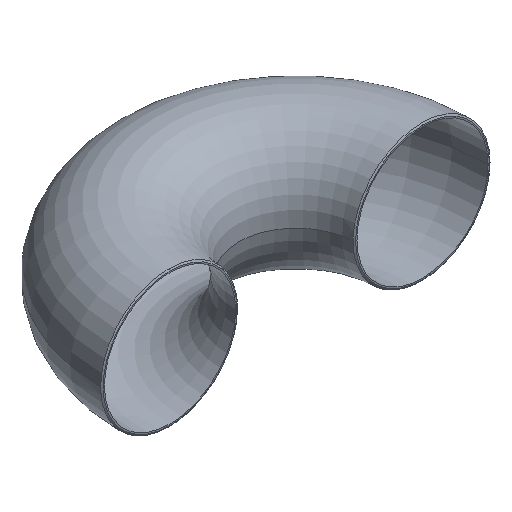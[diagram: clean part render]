
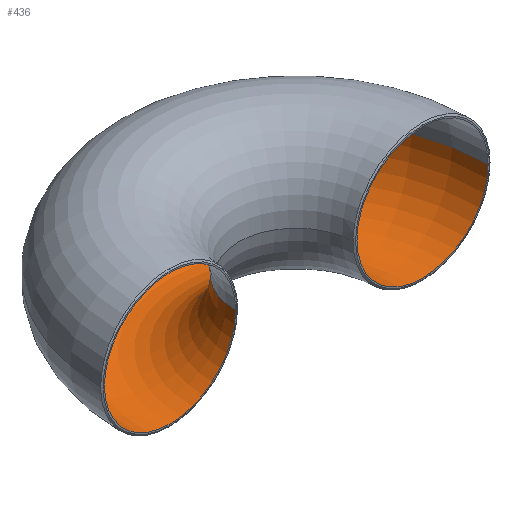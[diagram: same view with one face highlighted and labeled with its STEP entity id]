
A CAD part, isometric view. The second image highlights one B-rep face of the part: STEP entity #436.
In plain terms, the highlighted toroidal (fillet/blend) face has major radius 152.4 mm and minor radius 79.2 mm.
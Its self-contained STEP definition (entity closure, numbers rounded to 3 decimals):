
#14 = ORIENTED_EDGE ( 'NONE', *, *, #61, .F. ) ;
#19 = ORIENTED_EDGE ( 'NONE', *, *, #382, .F. ) ;
#30 = AXIS2_PLACEMENT_3D ( 'NONE', #392, #397, #300 ) ;
#39 = CARTESIAN_POINT ( 'NONE',  ( 79.2, 0., 0. ) ) ;
#61 = EDGE_CURVE ( 'NONE', #522, #104, #333, .T. ) ;
#65 = DIRECTION ( 'NONE',  ( -1., 0., 0. ) ) ;
#80 = CIRCLE ( 'NONE', #291, 79.2 ) ;
#104 = VERTEX_POINT ( 'NONE', #599 ) ;
#106 = DIRECTION ( 'NONE',  ( 0., 0., -1. ) ) ;
#116 = ORIENTED_EDGE ( 'NONE', *, *, #243, .T. ) ;
#149 = CARTESIAN_POINT ( 'NONE',  ( 152.4, 0., 0. ) ) ;
#150 = AXIS2_PLACEMENT_3D ( 'NONE', #257, #106, #65 ) ;
#186 = EDGE_LOOP ( 'NONE', ( #19, #116, #518, #14 ) ) ;
#192 = DIRECTION ( 'NONE',  ( -1., 0., 0. ) ) ;
#219 = DIRECTION ( 'NONE',  ( 0., -1., 0. ) ) ;
#227 = TOROIDAL_SURFACE ( 'NONE', #336, 152.4, 79.2 ) ;
#243 = EDGE_CURVE ( 'NONE', #303, #632, #80, .T. ) ;
#257 = CARTESIAN_POINT ( 'NONE',  ( 152.4, 0., 0. ) ) ;
#258 = AXIS2_PLACEMENT_3D ( 'NONE', #359, #446, #192 ) ;
#291 = AXIS2_PLACEMENT_3D ( 'NONE', #581, #219, #420 ) ;
#300 = DIRECTION ( 'NONE',  ( 0., 0., 1. ) ) ;
#303 = VERTEX_POINT ( 'NONE', #309 ) ;
#309 = CARTESIAN_POINT ( 'NONE',  ( -79.2, 0., 0. ) ) ;
#333 = CIRCLE ( 'NONE', #30, 79.2 ) ;
#336 = AXIS2_PLACEMENT_3D ( 'NONE', #149, #355, #507 ) ;
#355 = DIRECTION ( 'NONE',  ( 0., 0., -1. ) ) ;
#359 = CARTESIAN_POINT ( 'NONE',  ( 152.4, 0., 0. ) ) ;
#382 = EDGE_CURVE ( 'NONE', #303, #522, #595, .T. ) ;
#392 = CARTESIAN_POINT ( 'NONE',  ( 304.8, 0., 0. ) ) ;
#397 = DIRECTION ( 'NONE',  ( 0., 1., 0. ) ) ;
#420 = DIRECTION ( 'NONE',  ( 0., 0., 1. ) ) ;
#425 = CIRCLE ( 'NONE', #150, 73.2 ) ;
#436 = ADVANCED_FACE ( 'NONE', ( #562 ), #227, .F. ) ;
#446 = DIRECTION ( 'NONE',  ( 0., 0., -1. ) ) ;
#464 = CARTESIAN_POINT ( 'NONE',  ( 384., 0., 0. ) ) ;
#481 = EDGE_CURVE ( 'NONE', #632, #104, #425, .T. ) ;
#507 = DIRECTION ( 'NONE',  ( -1., 0., 0. ) ) ;
#518 = ORIENTED_EDGE ( 'NONE', *, *, #481, .T. ) ;
#522 = VERTEX_POINT ( 'NONE', #464 ) ;
#562 = FACE_OUTER_BOUND ( 'NONE', #186, .T. ) ;
#581 = CARTESIAN_POINT ( 'NONE',  ( 0., 0., 0. ) ) ;
#595 = CIRCLE ( 'NONE', #258, 231.6 ) ;
#599 = CARTESIAN_POINT ( 'NONE',  ( 225.6, 0., 0. ) ) ;
#632 = VERTEX_POINT ( 'NONE', #39 ) ;
